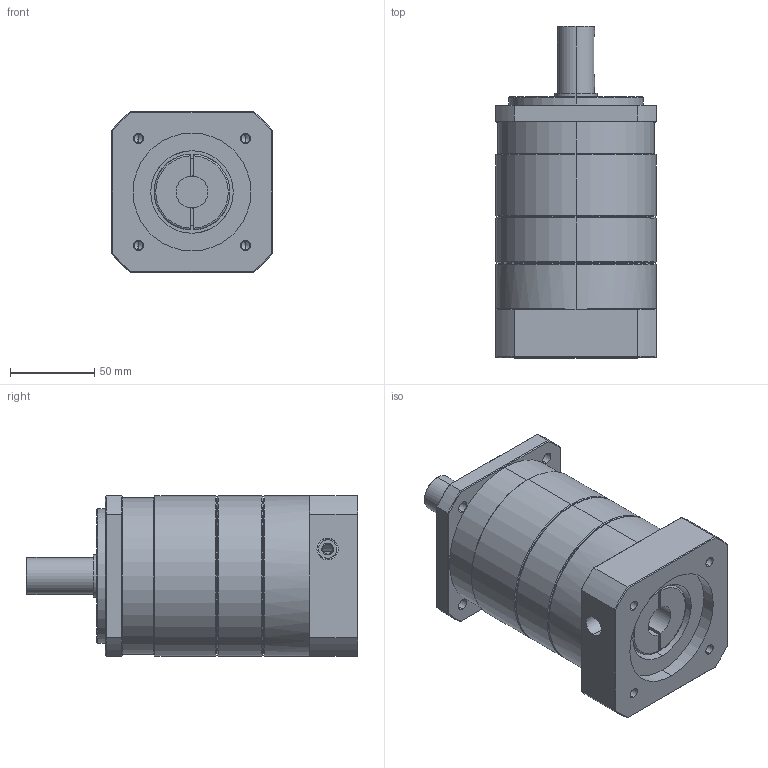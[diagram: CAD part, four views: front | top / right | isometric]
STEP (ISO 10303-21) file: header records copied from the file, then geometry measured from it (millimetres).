
FILE_DESCRIPTION (( 'STEP AP203' ), '1' );
FILE_NAME ('PX90-L2£r70£r90M6.STEP', '2019-02-19T07:15:13', ( 'KELLY' ), ( '' ), 'SwSTEP 2.0', 'SolidWorks 2012', '' );
FILE_SCHEMA (( 'CONFIG_CONTROL_DESIGN' ));
Length unit declared in the file: millimetre
Products named in the file (1): PX90-L2｣r70｣r90M6
Bounding box: 95 x 197 x 95 mm (x, y, z)
Volume: 1089919.2 mm3; surface area: 107529 mm2
Topology: 2 solids, 2 shells, 195 faces, 454 edges, 277 vertices
Faces by surface type: cylinder 82, plane 69, cone 40, torus 4
Entity records: 6125 total; most frequent: CARTESIAN_POINT 1579, DIRECTION 972, ORIENTED_EDGE 888, EDGE_CURVE 444, AXIS2_PLACEMENT_3D 394, VERTEX_POINT 277, EDGE_LOOP 239, CIRCLE 198
